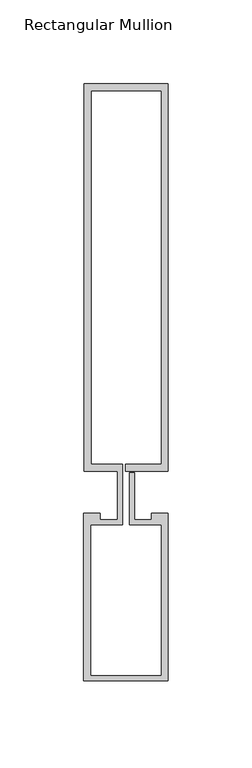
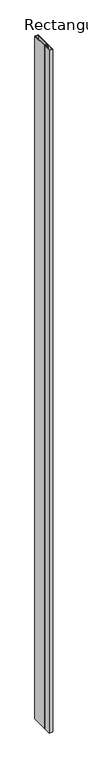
"""IFC4 building model written with IfcOpenShell, lengths in millimetres: member geometry, Rectangular Mullion : Reynaers_CW-50_Mullion-Transom_Vertical_230.5mm_Facecap-02D."""

from ifc_helpers import new_model, si_unit, frame, origin, place, context, project, spatial, polyline, outline, extrude, source, transform, mapped, element, save


def rectangular_mullion_970c577f(model_context):
    return source(origin(), model_context, "Body", "SweptSolid", [
        extrude(outline(polyline([(-24.8004059, 243.0), (25.1995941, 243.0), (25.1995941, 12.5), (0.0, 12.5), (0.0, 16.5), (21.1995941, 16.5), (21.1995941, 239.0), (-20.8004059, 239.0), (-20.8004059, 16.5), (-1.9004059, 16.5), (-1.9004059, -19.5), (-20.994845, -19.5), (-20.994845, -109.4191338), (21.1995941, -109.4191338), (21.1995941, -19.5), (2.2995941, -19.5), (2.2995941, 11.5), (5.2995941, 11.5), (5.2995941, -16.5), (15.2996495, -16.5), (15.2996495, -12.5), (25.1995941, -12.5), (25.1995941, -112.5), (-24.994845, -112.5), (-24.994845, -12.5), (-15.2996495, -12.5), (-15.2996495, -16.5), (-4.9004059, -16.5), (-4.9004059, 12.5), (-24.8004059, 12.5), (-24.8004059, 243.0)])), frame((0.0, 0.0, -10400.0), z_axis=(0.0, 0.0, 1.0), x_axis=(1.0, 0.0, 0.0)), (0.0, 0.0, 1.0), 10400.0),
    ])


if __name__ == "__main__":
    model = new_model("IFC4")
    model_context = context("Model", 3, world=origin())
    ifc_project = project(units=[si_unit("LENGTHUNIT", "METRE", prefix="MILLI")], contexts=[model_context])
    site = spatial("IfcSite", under=ifc_project)
    building = spatial("IfcBuilding", under=site)
    placement = place(None, origin())
    rectangular_mullion_shape = rectangular_mullion_970c577f(model_context)
    element("IfcMember", 1, ObjectType="Rectangular Mullion : Reynaers_CW-50_Mullion-Transom_Vertical_230.5mm_Facecap-02D", at=placement, inside=building, context=model_context, shape_type="MappedRepresentation", body=[
        mapped(rectangular_mullion_shape, transform((0.0, 0.0, 0.0), x_axis=(1.0, 0.0, 0.0), y_axis=(0.0, 1.0, 0.0), z_axis=(0.0, 0.0, 1.0))),
    ])
    save(model, "model.ifc")
